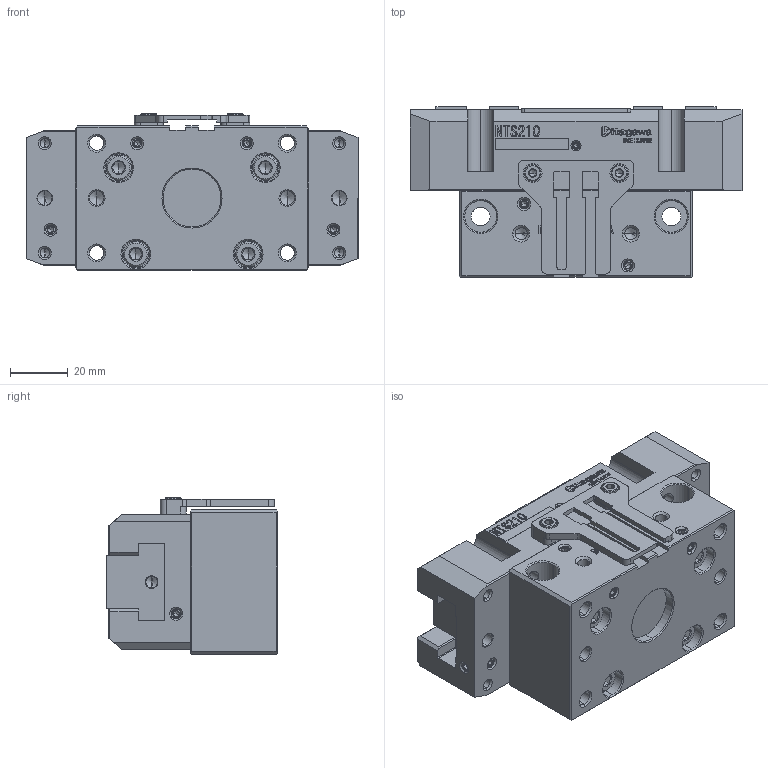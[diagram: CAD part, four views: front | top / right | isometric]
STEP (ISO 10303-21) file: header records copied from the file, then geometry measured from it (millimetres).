
FILE_DESCRIPTION (( 'STEP AP214' ), '1' );
FILE_NAME ('NTS210-OC.STEP', '2025-01-07T05:22:12', ( '' ), ( '' ), 'SwSTEP 2.0', 'SolidWorks 2022', '' );
FILE_SCHEMA (( 'AUTOMOTIVE_DESIGN' ));
Length unit declared in the file: millimetre
Products named in the file (11): BOLT1^HP-NTS210; BRACKET^HP-NTS210; REAR BODY^HP-NTS210; S-TOME1^HP-NTS210; BODY^HP-NTS210; NTS210-OC; COVER^HP-NTS210; S-TOME2^HP-NTS210; BOLT2^HP-NTS210; MASTER JAW^HP-NTS210; S-SARA^HP-NTS210
Assembly tree (26 placements, depth 2):
  NTS210-OC
    BODY^HP-NTS210
    REAR BODY^HP-NTS210
    MASTER JAW^HP-NTS210  x2
    COVER^HP-NTS210
    BRACKET^HP-NTS210
    BOLT1^HP-NTS210  x4
    BOLT2^HP-NTS210  x2
    S-TOME1^HP-NTS210  x9
    S-TOME2^HP-NTS210
    S-SARA^HP-NTS210  x4
Bounding box: 115 x 59 x 54.2 mm (x, y, z)
Volume: 244233.2 mm3; surface area: 70511.6 mm2
Topology: 26 solids, 26 shells, 1986 faces, 5353 edges, 3436 vertices
Faces by surface type: plane 1300, cone 310, cylinder 267, bspline 109
Entity records: 57189 total; most frequent: CARTESIAN_POINT 15573, ORIENTED_EDGE 8790, DIRECTION 7655, EDGE_CURVE 4395, VECTOR 3605, LINE 3605, VERTEX_POINT 2883, AXIS2_PLACEMENT_3D 2025
